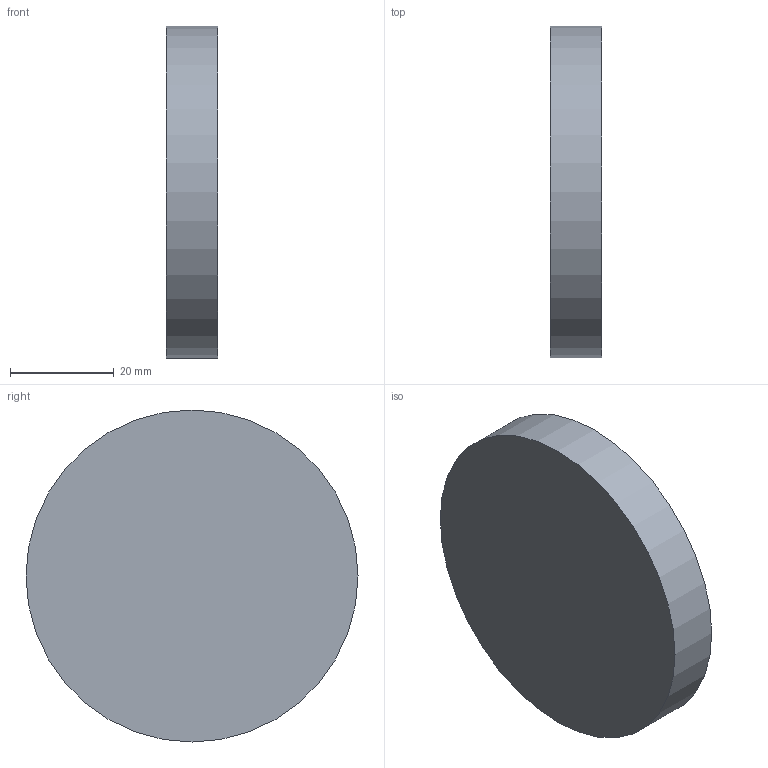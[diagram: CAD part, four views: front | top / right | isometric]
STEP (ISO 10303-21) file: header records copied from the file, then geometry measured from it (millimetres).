
FILE_DESCRIPTION(('Open CASCADE Model'),'2;1');
FILE_NAME('Open CASCADE Shape Model','2026-10-10T15:34:57',('Author'),( 'Open CASCADE'),'Open CASCADE STEP processor 7.9','Open CASCADE 7.9' ,'Unknown');
FILE_SCHEMA(('AUTOMOTIVE_DESIGN { 1 0 10303 214 1 1 1 1 }'));
Length unit declared in the file: millimetre
Products named in the file (1): Open CASCADE STEP translator 7.9 19
Bounding box: 10 x 64 x 64 mm (x, y, z)
Volume: 32169.9 mm3; surface area: 8444.6 mm2
Topology: 1 solids, 1 shells, 3 faces, 3 edges, 2 vertices
Faces by surface type: plane 2, cylinder 1
Full cylindrical faces by diameter (mm): 64 x1
Entity records: 108 total; most frequent: DIRECTION 19, CARTESIAN_POINT 15, AXIS2_PLACEMENT_3D 6, ORIENTED_EDGE 6, PCURVE 6, DEFINITIONAL_REPRESENTATION 6, LINE 5, VECTOR 5
